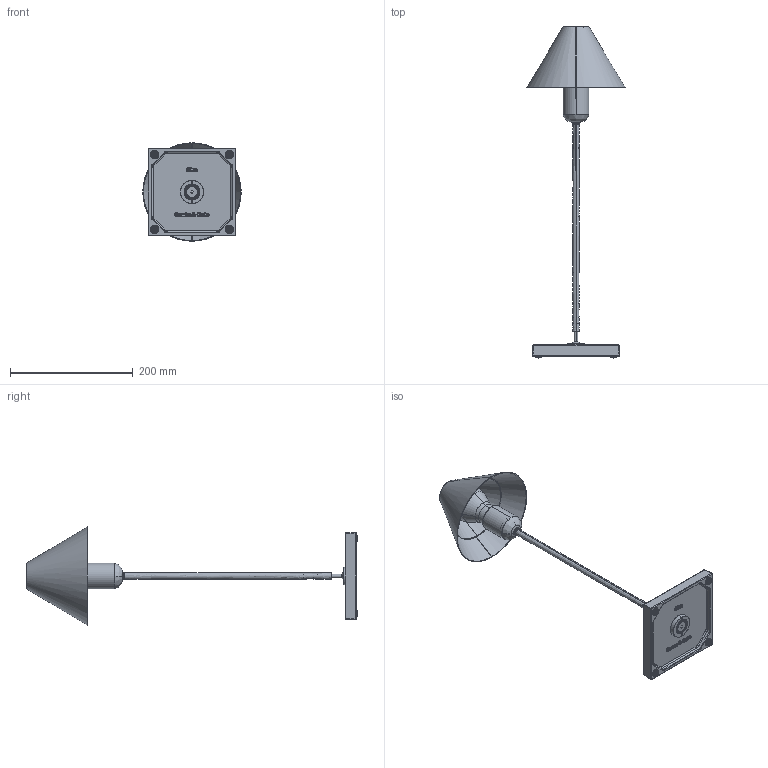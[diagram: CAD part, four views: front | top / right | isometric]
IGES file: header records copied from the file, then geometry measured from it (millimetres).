
Start section: SolidWorks IGES file using analytic representation for surfaces
Global section: file name: C:\Users\maria.romani.SANTACOLE\Desktop\GIRA\3D\Gira_3D sin cable.IGS; native system: SolidWorks 2016; preprocessor: SolidWorks 2016; author: maria.romani; date: 170419.162246; units: millimetre
Bounding box: 160 x 540.13 x 160 mm (x, y, z)
Surface area: 249065.6 mm2 (no closed solid volume)
Topology: 0 solids, 0 shells, 1092 faces, 12193 edges, 12169 vertices
Faces by surface type: bspline 652, revolution 440
